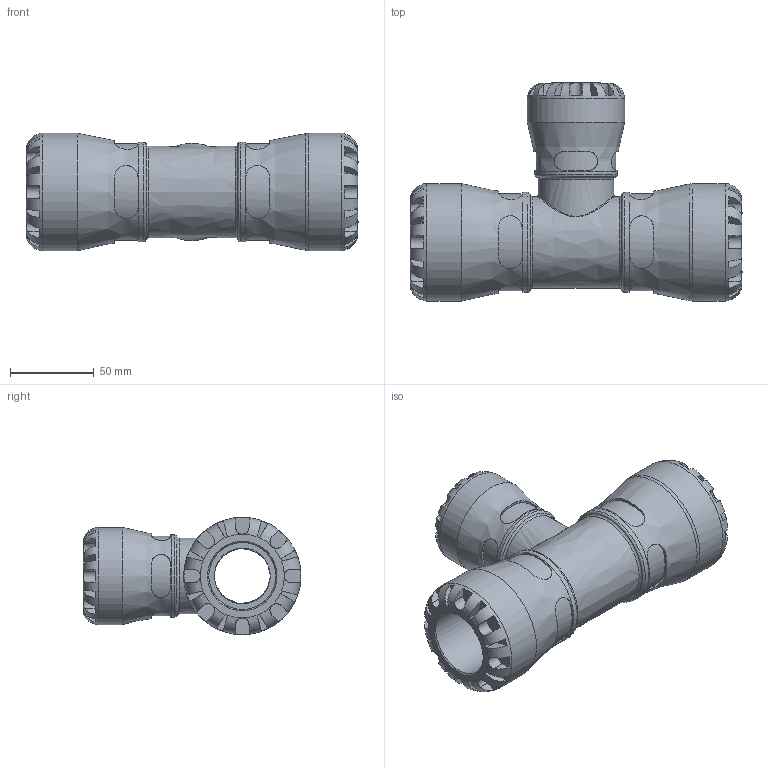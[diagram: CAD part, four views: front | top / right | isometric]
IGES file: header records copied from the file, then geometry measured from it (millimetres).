
Global section: file name: 153400040032; native system: Autodesk Inventor 2019; preprocessor: unknown; author: KIM; date: 20231021.225659; units: millimetre
Bounding box: 198 x 130 x 70 mm (x, y, z)
Volume: 454906 mm3; surface area: 92623.6 mm2
Topology: 1 solids, 1 shells, 287 faces, 760 edges, 488 vertices
Faces by surface type: bspline 287
